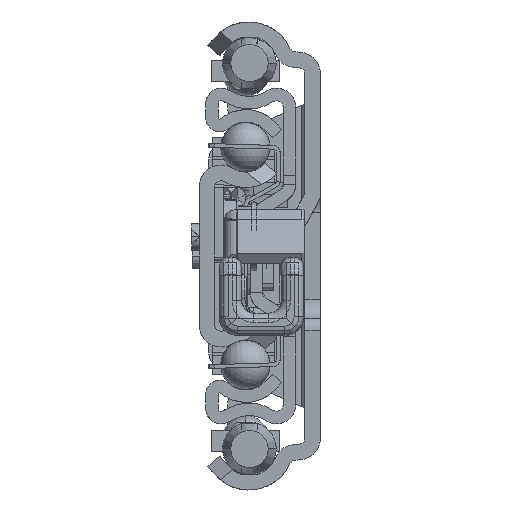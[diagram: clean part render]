
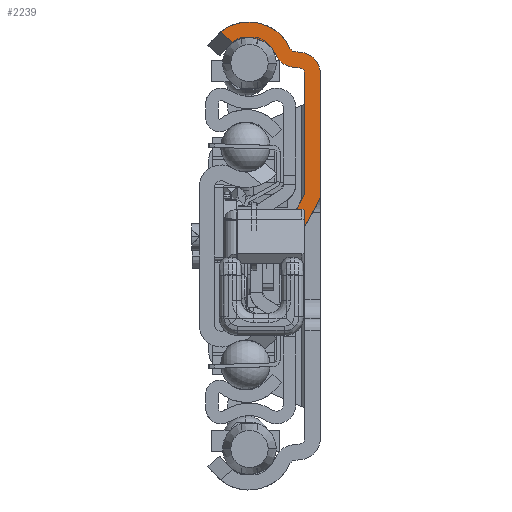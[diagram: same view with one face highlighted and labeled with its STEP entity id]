
A CAD part, left-side view. The second image highlights one B-rep face of the part: STEP entity #2239.
In plain terms, the highlighted planar face has unit normal (-1, 0, 0).
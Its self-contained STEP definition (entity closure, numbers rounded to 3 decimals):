
#1=DIRECTION('',(0.,-0.769,-0.639));
#2=VECTOR('',#1,2.575);
#3=CARTESIAN_POINT('',(0.,16.079,36.021));
#4=LINE('',#3,#2);
#5=CARTESIAN_POINT('',(0.,11.5,30.4));
#6=DIRECTION('',(1.,0.,0.));
#7=DIRECTION('',(0.,0.632,0.775));
#8=AXIS2_PLACEMENT_3D('',#5,#6,#7);
#10=DIRECTION('',(0.,-0.996,-0.087));
#11=VECTOR('',#10,0.904);
#12=CARTESIAN_POINT('',(0.,4.095,32.858));
#13=LINE('',#12,#11);
#14=CARTESIAN_POINT('',(0.,3.5,29.293));
#15=DIRECTION('',(-1.,0.,0.));
#16=DIRECTION('',(0.,-1.,0.));
#17=AXIS2_PLACEMENT_3D('',#14,#15,#16);
#19=CARTESIAN_POINT('',(0.,2.5,9.942));
#20=DIRECTION('',(1.,0.,0.));
#21=DIRECTION('',(0.,-1.,0.));
#22=AXIS2_PLACEMENT_3D('',#19,#20,#21);
#24=DIRECTION('',(0.,-1.,0.));
#25=VECTOR('',#24,2.78);
#26=CARTESIAN_POINT('',(0.,6.177,3.04));
#27=LINE('',#26,#25);
#28=CARTESIAN_POINT('',(0.,0.5,1.099));
#29=DIRECTION('',(-1.,0.,0.));
#30=DIRECTION('',(0.,0.879,0.477));
#31=AXIS2_PLACEMENT_3D('',#28,#29,#30);
#33=DIRECTION('',(0.,0.477,-0.879));
#34=VECTOR('',#33,6.873);
#35=CARTESIAN_POINT('',(0.,2.5,10.));
#36=LINE('',#35,#34);
#37=DIRECTION('',(0.,0.,1.));
#38=VECTOR('',#37,19.293);
#39=CARTESIAN_POINT('',(0.,2.5,10.));
#40=LINE('',#39,#38);
#41=DIRECTION('',(0.,0.996,0.087));
#42=VECTOR('',#41,0.904);
#43=CARTESIAN_POINT('',(0.,3.413,30.289));
#44=LINE('',#43,#42);
#45=CARTESIAN_POINT('',(0.,4.008,33.854));
#46=DIRECTION('',(-1.,0.,0.));
#47=DIRECTION('',(0.,0.908,-0.419));
#48=AXIS2_PLACEMENT_3D('',#45,#46,#47);
#50=CARTESIAN_POINT('',(0.,11.5,30.4));
#51=DIRECTION('',(-1.,0.,0.));
#52=DIRECTION('',(0.,-0.908,0.419));
#53=AXIS2_PLACEMENT_3D('',#50,#51,#52);
#99=CARTESIAN_POINT('',(0.,14.098,34.377));
#147=CARTESIAN_POINT('',(0.,3.5,29.293));
#148=DIRECTION('',(1.,0.,0.));
#149=DIRECTION('',(0.,-0.087,0.996));
#150=AXIS2_PLACEMENT_3D('',#147,#148,#149);
#615=DIRECTION('',(0.,0.,1.));
#616=VECTOR('',#615,19.351);
#617=CARTESIAN_POINT('',(0.,0.,9.942));
#618=LINE('',#617,#616);
#928=CARTESIAN_POINT('',(0.,16.079,36.021));
#1365=CARTESIAN_POINT('',(0.,4.008,33.854));
#1366=DIRECTION('',(1.,0.,0.));
#1367=DIRECTION('',(0.,0.087,-0.996));
#1368=AXIS2_PLACEMENT_3D('',#1365,#1366,#1367);
#1462=CARTESIAN_POINT('',(0.,3.397,3.04));
#1467=DIRECTION('',(0.,-0.477,0.879));
#1468=VECTOR('',#1467,6.495);
#1469=CARTESIAN_POINT('',(0.,3.397,3.04));
#1470=LINE('',#1469,#1468);
#1713=CARTESIAN_POINT('',(0.,3.413,30.289));
#1714=CARTESIAN_POINT('',(0.,2.5,29.293));
#1715=VERTEX_POINT('',#1713);
#1716=VERTEX_POINT('',#1714);
#1717=CARTESIAN_POINT('',(0.,4.095,32.858));
#1718=CARTESIAN_POINT('',(0.,4.916,33.436));
#1719=VERTEX_POINT('',#1717);
#1720=VERTEX_POINT('',#1718);
#1729=CARTESIAN_POINT('',(0.,7.186,32.389));
#1730=CARTESIAN_POINT('',(0.,4.313,30.368));
#1731=VERTEX_POINT('',#1729);
#1732=VERTEX_POINT('',#1730);
#1733=CARTESIAN_POINT('',(0.,0.,29.293));
#1734=CARTESIAN_POINT('',(0.,3.195,
32.78));
#1735=VERTEX_POINT('',#1733);
#1736=VERTEX_POINT('',#1734);
#1829=CARTESIAN_POINT('',(0.,2.5,10.));
#1830=VERTEX_POINT('',#1829);
#1889=CARTESIAN_POINT('',(0.,0.,9.942));
#1891=VERTEX_POINT('',#1889);
#1894=CARTESIAN_POINT('',(0.,0.302,8.751));
#1895=VERTEX_POINT('',#1894);
#1898=CARTESIAN_POINT('',(0.,5.775,3.958));
#1899=VERTEX_POINT('',#1898);
#1900=CARTESIAN_POINT('',(0.,6.177,3.04));
#1901=VERTEX_POINT('',#1900);
#1904=VERTEX_POINT('',#1462);
#2166=VERTEX_POINT('',#99);
#2174=VERTEX_POINT('',#928);
#2200=CARTESIAN_POINT('',(0.,0.,0.));
#2201=DIRECTION('',(1.,0.,0.));
#2202=DIRECTION('',(0.,-1.,0.));
#2203=AXIS2_PLACEMENT_3D('',#2200,#2201,#2202);
#2204=PLANE('',#2203);
#2206=ORIENTED_EDGE('',*,*,#2205,.F.);
#2208=ORIENTED_EDGE('',*,*,#2207,.T.);
#2210=ORIENTED_EDGE('',*,*,#2209,.F.);
#2212=ORIENTED_EDGE('',*,*,#2211,.T.);
#2214=ORIENTED_EDGE('',*,*,#2213,.F.);
#2216=ORIENTED_EDGE('',*,*,#2215,.F.);
#2218=ORIENTED_EDGE('',*,*,#2217,.T.);
#2220=ORIENTED_EDGE('',*,*,#2219,.F.);
#2222=ORIENTED_EDGE('',*,*,#2221,.F.);
#2224=ORIENTED_EDGE('',*,*,#2223,.F.);
#2226=ORIENTED_EDGE('',*,*,#2225,.F.);
#2228=ORIENTED_EDGE('',*,*,#2227,.T.);
#2230=ORIENTED_EDGE('',*,*,#2229,.F.);
#2232=ORIENTED_EDGE('',*,*,#2231,.T.);
#2234=ORIENTED_EDGE('',*,*,#2233,.F.);
#2236=ORIENTED_EDGE('',*,*,#2235,.T.);
#2237=EDGE_LOOP('',(#2206,#2208,#2210,#2212,#2214,#2216,#2218,#2220,#2222,#2224,
#2226,#2228,#2230,#2232,#2234,#2236));
#2238=FACE_OUTER_BOUND('',#2237,.F.);
#9=CIRCLE('',#8,7.25);
#18=CIRCLE('',#17,3.5);
#23=CIRCLE('',#22,2.5);
#32=CIRCLE('',#31,6.);
#49=CIRCLE('',#48,3.5);
#54=CIRCLE('',#53,4.75);
#151=CIRCLE('',#150,1.);
#1369=CIRCLE('',#1368,1.);
#2205=EDGE_CURVE('',#2174,#2166,#4,.T.);
#2207=EDGE_CURVE('',#2174,#1720,#9,.T.);
#2209=EDGE_CURVE('',#1719,#1720,#1369,.T.);
#2211=EDGE_CURVE('',#1719,#1736,#13,.T.);
#2213=EDGE_CURVE('',#1735,#1736,#18,.T.);
#2215=EDGE_CURVE('',#1891,#1735,#618,.T.);
#2217=EDGE_CURVE('',#1891,#1895,#23,.T.);
#2219=EDGE_CURVE('',#1904,#1895,#1470,.T.);
#2221=EDGE_CURVE('',#1901,#1904,#27,.T.);
#2223=EDGE_CURVE('',#1899,#1901,#32,.T.);
#2225=EDGE_CURVE('',#1830,#1899,#36,.T.);
#2227=EDGE_CURVE('',#1830,#1716,#40,.T.);
#2229=EDGE_CURVE('',#1715,#1716,#151,.T.);
#2231=EDGE_CURVE('',#1715,#1732,#44,.T.);
#2233=EDGE_CURVE('',#1731,#1732,#49,.T.);
#2235=EDGE_CURVE('',#1731,#2166,#54,.T.);
#2239=ADVANCED_FACE('',(#2238),#2204,.F.);
